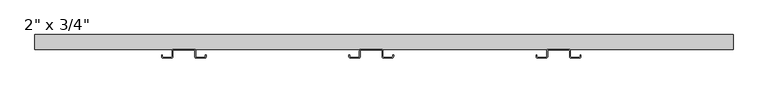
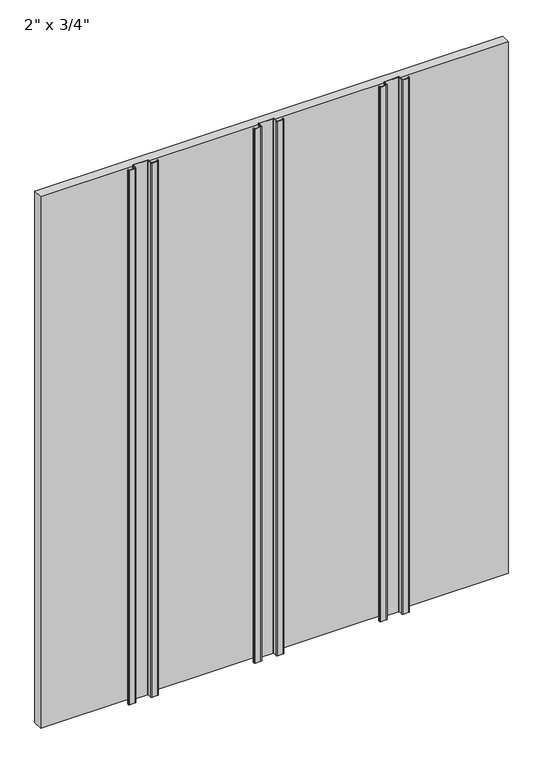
"""IFC4 building model written with IfcOpenShell, lengths in millimetres: plate geometry."""

from ifc_helpers import new_model, si_unit, point, frame, frame_2d, origin, origin_with_axes, place, context, project, spatial, polyline, circle_curve, trimmed, segment, composite_curve, outline, extrude, source, transform, mapped, element, save


def plate_85d27ee4(model_context):
    return source(origin(), model_context, "Body", "SweptSolid", [
        extrude(outline(composite_curve([segment(polyline([(-76.2000002, 3.175), (-76.2000002, 6.35), (-74.6125002, 6.35), (-74.6125002, 3.175)]), True, "CONTINUOUS"), segment(trimmed(circle_curve(frame_2d((-73.0250002, 3.175)), 1.5875), [point((-74.6125002, 3.175))], [point((-73.0250002, 1.5875))], True, "CARTESIAN"), True, "CONTINUOUS"), segment(polyline([(-73.0250002, 1.5875), (-54.7624002, 1.5875)]), True, "CONTINUOUS"), segment(trimmed(circle_curve(frame_2d((-54.7624002, 3.175)), 1.5875), [point((-54.7624002, 1.5875))], [point((-53.1749002, 3.175))], True, "CARTESIAN"), True, "CONTINUOUS"), segment(polyline([(-53.1749002, 3.175), (-53.1749002, 15.875)]), True, "CONTINUOUS"), segment(trimmed(circle_curve(frame_2d((-49.9999002, 15.875)), 3.175), [point((-53.1749002, 15.875))], [point((-49.9999002, 19.05))], False, "CARTESIAN"), True, "CONTINUOUS"), segment(polyline([(-49.9999002, 19.05), (-5.5499002, 19.05)]), True, "CONTINUOUS"), segment(trimmed(circle_curve(frame_2d((-5.5499002, 15.875)), 3.175), [point((-5.5499002, 19.05))], [point((-2.3749002, 15.875))], False, "CARTESIAN"), True, "CONTINUOUS"), segment(polyline([(-2.3749002, 15.875), (-2.3749002, 3.175)]), True, "CONTINUOUS"), segment(trimmed(circle_curve(frame_2d((-0.7874002, 3.175)), 1.5875), [point((-2.3749002, 3.175))], [point((-0.7874002, 1.5875))], True, "CARTESIAN"), True, "CONTINUOUS"), segment(polyline([(-0.7874002, 1.5875), (17.4751998, 1.5875)]), True, "CONTINUOUS"), segment(trimmed(circle_curve(frame_2d((17.4751998, 3.175)), 1.5875), [point((17.4751998, 1.5875))], [point((19.0626998, 3.175))], True, "CARTESIAN"), True, "CONTINUOUS"), segment(polyline([(19.0626998, 3.175), (19.0626998, 6.35), (20.6501998, 6.35), (20.6501998, 3.175)]), True, "CONTINUOUS"), segment(trimmed(circle_curve(frame_2d((17.4751998, 3.175)), 3.175), [point((20.6501998, 3.175))], [point((17.4751998, 0.0))], False, "CARTESIAN"), True, "CONTINUOUS"), segment(polyline([(17.4751998, 0.0), (-0.7874002, 0.0)]), True, "CONTINUOUS"), segment(trimmed(circle_curve(frame_2d((-0.7874002, 3.175)), 3.175), [point((-0.7874002, 0.0))], [point((-3.9624002, 3.175))], False, "CARTESIAN"), True, "CONTINUOUS"), segment(polyline([(-3.9624002, 3.175), (-3.9624002, 15.875)]), True, "CONTINUOUS"), segment(trimmed(circle_curve(frame_2d((-5.5499002, 15.875)), 1.5875), [point((-3.9624002, 15.875))], [point((-5.5499002, 17.4625))], True, "CARTESIAN"), True, "CONTINUOUS"), segment(polyline([(-5.5499002, 17.4625), (-49.9999002, 17.4625)]), True, "CONTINUOUS"), segment(trimmed(circle_curve(frame_2d((-49.9999002, 15.875)), 1.5875), [point((-49.9999002, 17.4625))], [point((-51.5874002, 15.875))], True, "CARTESIAN"), True, "CONTINUOUS"), segment(polyline([(-51.5874002, 15.875), (-51.5874002, 3.175)]), True, "CONTINUOUS"), segment(trimmed(circle_curve(frame_2d((-54.7624002, 3.175)), 3.175), [point((-51.5874002, 3.175))], [point((-54.7624002, 0.0))], False, "CARTESIAN"), True, "CONTINUOUS"), segment(polyline([(-54.7624002, 0.0), (-73.0250002, 0.0)]), True, "CONTINUOUS"), segment(trimmed(circle_curve(frame_2d((-73.0250002, 3.175)), 3.175), [point((-73.0250002, 0.0))], [point((-76.2000002, 3.175))], False, "CARTESIAN"), True, "CONTINUOUS")], self_intersect=False)), origin_with_axes(), (0.0, 0.0, 1.0), 1828.8),
        extrude(outline(composite_curve([segment(polyline([(330.1999998, 3.175), (330.1999998, 6.35), (331.7874998, 6.35), (331.7874998, 3.175)]), True, "CONTINUOUS"), segment(trimmed(circle_curve(frame_2d((333.3749998, 3.175)), 1.5875), [point((331.7874998, 3.175))], [point((333.3749998, 1.5875))], True, "CARTESIAN"), True, "CONTINUOUS"), segment(polyline([(333.3749998, 1.5875), (351.6375998, 1.5875)]), True, "CONTINUOUS"), segment(trimmed(circle_curve(frame_2d((351.6375998, 3.175)), 1.5875), [point((351.6375998, 1.5875))], [point((353.2250998, 3.175))], True, "CARTESIAN"), True, "CONTINUOUS"), segment(polyline([(353.2250998, 3.175), (353.2250998, 15.875)]), True, "CONTINUOUS"), segment(trimmed(circle_curve(frame_2d((356.4000998, 15.875)), 3.175), [point((353.2250998, 15.875))], [point((356.4000998, 19.05))], False, "CARTESIAN"), True, "CONTINUOUS"), segment(polyline([(356.4000998, 19.05), (400.8500998, 19.05)]), True, "CONTINUOUS"), segment(trimmed(circle_curve(frame_2d((400.8500998, 15.875)), 3.175), [point((400.8500998, 19.05))], [point((404.0250998, 15.875))], False, "CARTESIAN"), True, "CONTINUOUS"), segment(polyline([(404.0250998, 15.875), (404.0250998, 3.175)]), True, "CONTINUOUS"), segment(trimmed(circle_curve(frame_2d((405.6125998, 3.175)), 1.5875), [point((404.0250998, 3.175))], [point((405.6125998, 1.5875))], True, "CARTESIAN"), True, "CONTINUOUS"), segment(polyline([(405.6125998, 1.5875), (423.8751998, 1.5875)]), True, "CONTINUOUS"), segment(trimmed(circle_curve(frame_2d((423.8751998, 3.175)), 1.5875), [point((423.8751998, 1.5875))], [point((425.4626998, 3.175))], True, "CARTESIAN"), True, "CONTINUOUS"), segment(polyline([(425.4626998, 3.175), (425.4626998, 6.35), (427.0501998, 6.35), (427.0501998, 3.175)]), True, "CONTINUOUS"), segment(trimmed(circle_curve(frame_2d((423.8751998, 3.175)), 3.175), [point((427.0501998, 3.175))], [point((423.8751998, 0.0))], False, "CARTESIAN"), True, "CONTINUOUS"), segment(polyline([(423.8751998, 0.0), (405.6125998, 0.0)]), True, "CONTINUOUS"), segment(trimmed(circle_curve(frame_2d((405.6125998, 3.175)), 3.175), [point((405.6125998, 0.0))], [point((402.4375998, 3.175))], False, "CARTESIAN"), True, "CONTINUOUS"), segment(polyline([(402.4375998, 3.175), (402.4375998, 15.875)]), True, "CONTINUOUS"), segment(trimmed(circle_curve(frame_2d((400.8500998, 15.875)), 1.5875), [point((402.4375998, 15.875))], [point((400.8500998, 17.4625))], True, "CARTESIAN"), True, "CONTINUOUS"), segment(polyline([(400.8500998, 17.4625), (356.4000998, 17.4625)]), True, "CONTINUOUS"), segment(trimmed(circle_curve(frame_2d((356.4000998, 15.875)), 1.5875), [point((356.4000998, 17.4625))], [point((354.8125998, 15.875))], True, "CARTESIAN"), True, "CONTINUOUS"), segment(polyline([(354.8125998, 15.875), (354.8125998, 3.175)]), True, "CONTINUOUS"), segment(trimmed(circle_curve(frame_2d((351.6375998, 3.175)), 3.175), [point((354.8125998, 3.175))], [point((351.6375998, 0.0))], False, "CARTESIAN"), True, "CONTINUOUS"), segment(polyline([(351.6375998, 0.0), (333.3749998, 0.0)]), True, "CONTINUOUS"), segment(trimmed(circle_curve(frame_2d((333.3749998, 3.175)), 3.175), [point((333.3749998, 0.0))], [point((330.1999998, 3.175))], False, "CARTESIAN"), True, "CONTINUOUS")], self_intersect=False)), origin_with_axes(), (0.0, 0.0, 1.0), 1828.8),
        extrude(outline(composite_curve([segment(polyline([(-482.6000002, 3.175), (-482.6000002, 6.35), (-481.0125002, 6.35), (-481.0125002, 3.175)]), True, "CONTINUOUS"), segment(trimmed(circle_curve(frame_2d((-479.4250002, 3.175)), 1.5875), [point((-481.0125002, 3.175))], [point((-479.4250002, 1.5875))], True, "CARTESIAN"), True, "CONTINUOUS"), segment(polyline([(-479.4250002, 1.5875), (-461.1624002, 1.5875)]), True, "CONTINUOUS"), segment(trimmed(circle_curve(frame_2d((-461.1624002, 3.175)), 1.5875), [point((-461.1624002, 1.5875))], [point((-459.5749002, 3.175))], True, "CARTESIAN"), True, "CONTINUOUS"), segment(polyline([(-459.5749002, 3.175), (-459.5749002, 15.875)]), True, "CONTINUOUS"), segment(trimmed(circle_curve(frame_2d((-456.3999002, 15.875)), 3.175), [point((-459.5749002, 15.875))], [point((-456.3999002, 19.05))], False, "CARTESIAN"), True, "CONTINUOUS"), segment(polyline([(-456.3999002, 19.05), (-411.9499002, 19.05)]), True, "CONTINUOUS"), segment(trimmed(circle_curve(frame_2d((-411.9499002, 15.875)), 3.175), [point((-411.9499002, 19.05))], [point((-408.7749002, 15.875))], False, "CARTESIAN"), True, "CONTINUOUS"), segment(polyline([(-408.7749002, 15.875), (-408.7749002, 3.175)]), True, "CONTINUOUS"), segment(trimmed(circle_curve(frame_2d((-407.1874002, 3.175)), 1.5875), [point((-408.7749002, 3.175))], [point((-407.1874002, 1.5875))], True, "CARTESIAN"), True, "CONTINUOUS"), segment(polyline([(-407.1874002, 1.5875), (-388.9248002, 1.5875)]), True, "CONTINUOUS"), segment(trimmed(circle_curve(frame_2d((-388.9248002, 3.175)), 1.5875), [point((-388.9248002, 1.5875))], [point((-387.3373002, 3.175))], True, "CARTESIAN"), True, "CONTINUOUS"), segment(polyline([(-387.3373002, 3.175), (-387.3373002, 6.35), (-385.7498002, 6.35), (-385.7498002, 3.175)]), True, "CONTINUOUS"), segment(trimmed(circle_curve(frame_2d((-388.9248002, 3.175)), 3.175), [point((-385.7498002, 3.175))], [point((-388.9248002, 0.0))], False, "CARTESIAN"), True, "CONTINUOUS"), segment(polyline([(-388.9248002, 0.0), (-407.1874002, 0.0)]), True, "CONTINUOUS"), segment(trimmed(circle_curve(frame_2d((-407.1874002, 3.175)), 3.175), [point((-407.1874002, 0.0))], [point((-410.3624002, 3.175))], False, "CARTESIAN"), True, "CONTINUOUS"), segment(polyline([(-410.3624002, 3.175), (-410.3624002, 15.875)]), True, "CONTINUOUS"), segment(trimmed(circle_curve(frame_2d((-411.9499002, 15.875)), 1.5875), [point((-410.3624002, 15.875))], [point((-411.9499002, 17.4625))], True, "CARTESIAN"), True, "CONTINUOUS"), segment(polyline([(-411.9499002, 17.4625), (-456.3999002, 17.4625)]), True, "CONTINUOUS"), segment(trimmed(circle_curve(frame_2d((-456.3999002, 15.875)), 1.5875), [point((-456.3999002, 17.4625))], [point((-457.9874002, 15.875))], True, "CARTESIAN"), True, "CONTINUOUS"), segment(polyline([(-457.9874002, 15.875), (-457.9874002, 3.175)]), True, "CONTINUOUS"), segment(trimmed(circle_curve(frame_2d((-461.1624002, 3.175)), 3.175), [point((-457.9874002, 3.175))], [point((-461.1624002, 0.0))], False, "CARTESIAN"), True, "CONTINUOUS"), segment(polyline([(-461.1624002, 0.0), (-479.4250002, 0.0)]), True, "CONTINUOUS"), segment(trimmed(circle_curve(frame_2d((-479.4250002, 3.175)), 3.175), [point((-479.4250002, 0.0))], [point((-482.6000002, 3.175))], False, "CARTESIAN"), True, "CONTINUOUS")], self_intersect=False)), origin_with_axes(), (0.0, 0.0, 1.0), 1828.8),
        extrude(outline(polyline([(757.2375002, 19.05), (-757.2375002, 19.05), (-757.2375002, 50.8), (757.2375002, 50.8), (757.2375002, 19.05)])), frame((0.0, 0.0, 4.7625), z_axis=(0.0, 0.0, 1.0), x_axis=(1.0, 0.0, 0.0)), (0.0, 0.0, 1.0), 1819.275),
    ])


if __name__ == "__main__":
    model = new_model("IFC4")
    model_context = context("Model", 3, world=origin())
    ifc_project = project(units=[si_unit("LENGTHUNIT", "METRE", prefix="MILLI")], contexts=[model_context])
    site = spatial("IfcSite", under=ifc_project)
    building = spatial("IfcBuilding", under=site)
    placement = place(None, origin())
    plate_shape = plate_85d27ee4(model_context)
    element("IfcPlate", 1, ObjectType="KWS_Generic-Panel_w_PanelRail-V : 2\" x 3/4\"", at=placement, inside=building, context=model_context, shape_type="MappedRepresentation", body=[
        mapped(plate_shape, transform((0.0, 0.0, 0.0), x_axis=(1.0, 0.0, 0.0), y_axis=(0.0, 1.0, 0.0), z_axis=(0.0, 0.0, 1.0))),
    ])
    save(model, "model.ifc")
